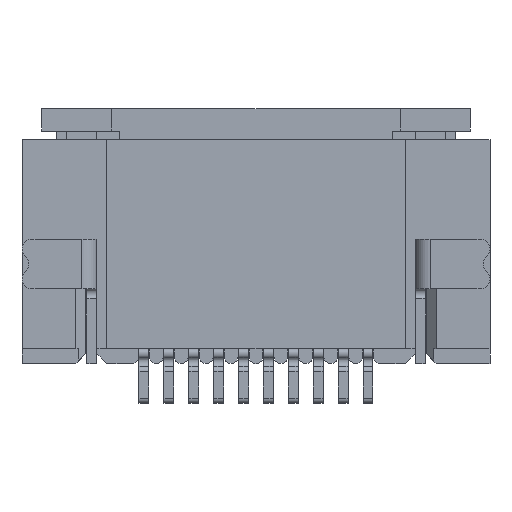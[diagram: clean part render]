
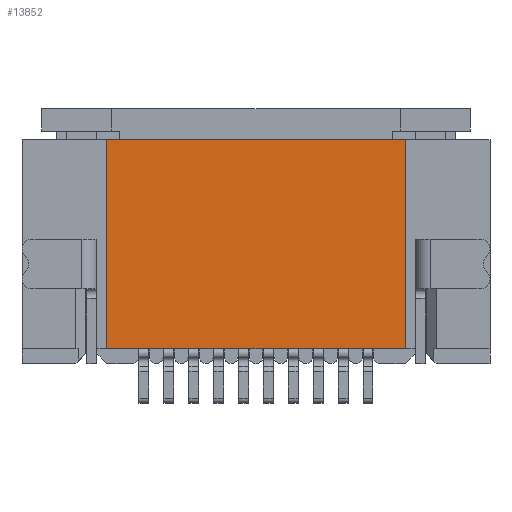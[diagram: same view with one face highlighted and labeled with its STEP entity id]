
A CAD part, front view. The second image highlights one B-rep face of the part: STEP entity #13852.
In plain terms, the highlighted planar face has unit normal (0, -1, 0).
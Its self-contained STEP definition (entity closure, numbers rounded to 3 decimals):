
#4745=DIRECTION('',(0.,0.,1.));
#4746=VECTOR('',#4745,4.2);
#4747=CARTESIAN_POINT('',(-8.,0.,-1.95));
#4748=LINE('',#4747,#4746);
#4757=DIRECTION('',(-1.,0.,0.));
#4758=VECTOR('',#4757,6.);
#4759=CARTESIAN_POINT('',(-2.,0.,2.25));
#4760=LINE('',#4759,#4758);
#4761=DIRECTION('',(0.,0.,1.));
#4762=VECTOR('',#4761,4.2);
#4763=CARTESIAN_POINT('',(-2.,0.,-1.95));
#4764=LINE('',#4763,#4762);
#4765=DIRECTION('',(1.,0.,0.));
#4766=VECTOR('',#4765,6.);
#4767=CARTESIAN_POINT('',(-8.,0.,-1.95));
#4768=LINE('',#4767,#4766);
#10925=CARTESIAN_POINT('',(-8.,0.,-1.95));
#10927=VERTEX_POINT('',#10925);
#11234=CARTESIAN_POINT('',(-2.,0.,-1.95));
#11235=CARTESIAN_POINT('',(-2.,0.,2.25));
#11236=VERTEX_POINT('',#11234);
#11237=VERTEX_POINT('',#11235);
#11285=CARTESIAN_POINT('',(-8.,0.,2.25));
#11287=VERTEX_POINT('',#11285);
#13840=CARTESIAN_POINT('',(0.,0.,0.));
#13841=DIRECTION('',(0.,1.,0.));
#13842=DIRECTION('',(1.,0.,0.));
#13843=AXIS2_PLACEMENT_3D('',#13840,#13841,#13842);
#13844=PLANE('',#13843);
#13845=ORIENTED_EDGE('',*,*,#13832,.T.);
#13846=ORIENTED_EDGE('',*,*,#13666,.F.);
#13848=ORIENTED_EDGE('',*,*,#13847,.F.);
#13849=ORIENTED_EDGE('',*,*,#13771,.F.);
#13850=EDGE_LOOP('',(#13845,#13846,#13848,#13849));
#13851=FACE_OUTER_BOUND('',#13850,.F.);
#13852=ADVANCED_FACE('',(#13851),#13844,.F.);
#13666=EDGE_CURVE('',#11237,#11287,#4760,.T.);
#13771=EDGE_CURVE('',#10927,#11236,#4768,.T.);
#13832=EDGE_CURVE('',#10927,#11287,#4748,.T.);
#13847=EDGE_CURVE('',#11236,#11237,#4764,.T.);
